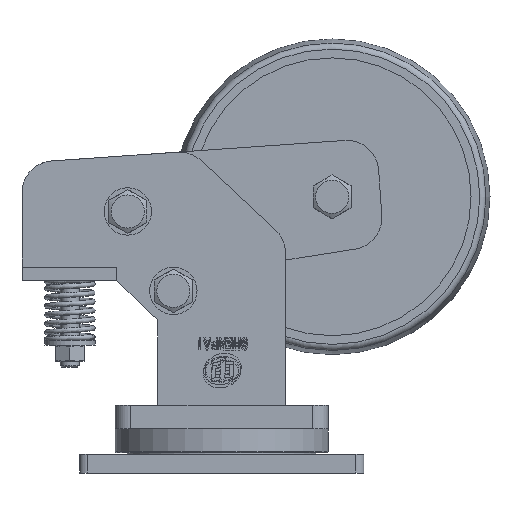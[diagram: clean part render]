
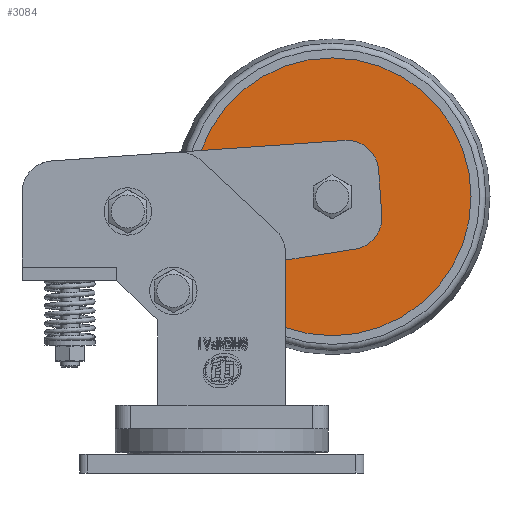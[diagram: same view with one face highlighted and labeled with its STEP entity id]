
A CAD part, front view. The second image highlights one B-rep face of the part: STEP entity #3084.
In plain terms, the highlighted planar face has unit normal (0, -1, 0).
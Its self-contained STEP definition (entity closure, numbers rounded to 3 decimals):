
#2247=CIRCLE('',#15498,88.);
#3084=ADVANCED_FACE('',(#4315),#3678,.F.);
#3678=PLANE('',#15499);
#4315=FACE_OUTER_BOUND('',#5451,.T.);
#5451=EDGE_LOOP('',(#9291));
#9291=ORIENTED_EDGE('',*,*,#12545,.T.);
#10625=VERTEX_POINT('',#31518);
#12545=EDGE_CURVE('',#10625,#10625,#2247,.T.);
#15498=AXIS2_PLACEMENT_3D('',#31517,#18891,#18892);
#15499=AXIS2_PLACEMENT_3D('',#31519,#18893,#18894);
#18891=DIRECTION('',(0.,-1.,0.));
#18892=DIRECTION('',(0.,0.,-1.));
#18893=DIRECTION('',(0.,1.,0.));
#18894=DIRECTION('',(0.,0.,-1.));
#31517=CARTESIAN_POINT('',(70.015,447.5,175.02));
#31518=CARTESIAN_POINT('',(70.015,447.5,87.02));
#31519=CARTESIAN_POINT('',(70.015,447.5,175.02));
